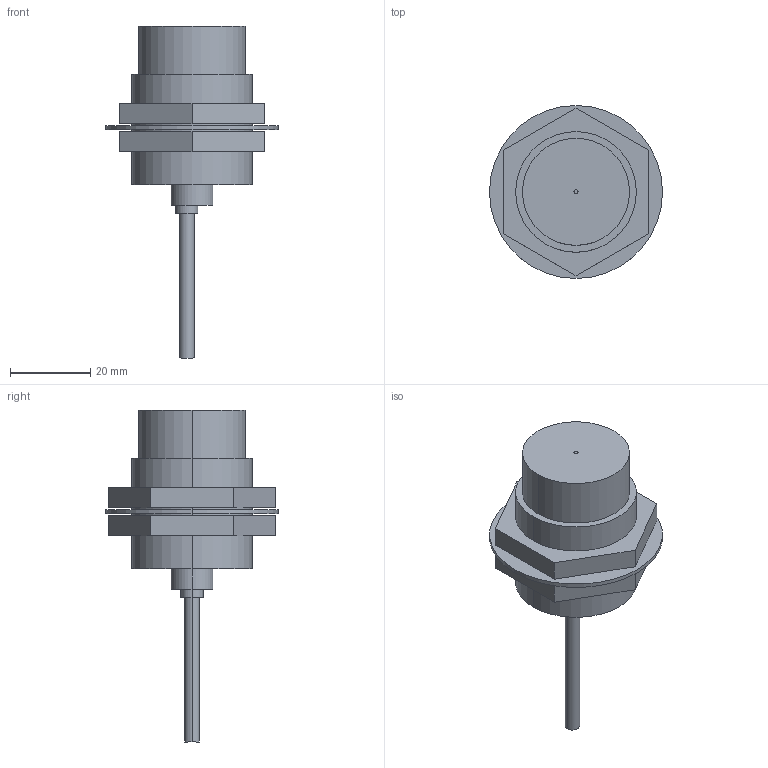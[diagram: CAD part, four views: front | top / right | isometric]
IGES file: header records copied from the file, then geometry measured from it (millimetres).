
Start section: SolidWorks IGES FILE using analytic representation for surfaces
Global section: file name: \\Intra-srv04\開発データ\CAD_Data\CAD委員会\3D電子ｶﾀﾛｸﾞ\製品カタログ（新）\0_IGES\GX-30MLU.IGS,41HSolidWorks 2004; native system: by SolidWorks Corporation; preprocessor: Version 5.3; author: YK0651; date: 051101.205407; units: millimetre
Bounding box: 43 x 43 x 82.5 mm (x, y, z)
Volume: 31846 mm3; surface area: 11186.3 mm2
Topology: 4 solids, 4 shells, 54 faces, 114 edges, 76 vertices
Faces by surface type: plane 28, revolution 26
